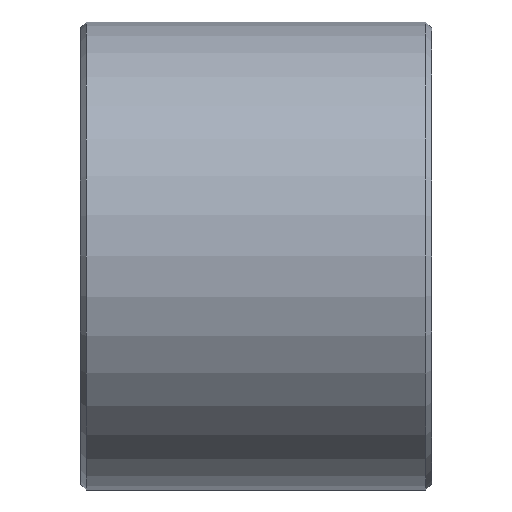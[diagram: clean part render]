
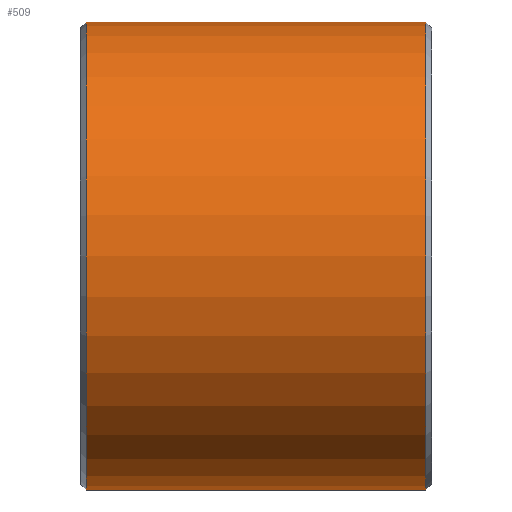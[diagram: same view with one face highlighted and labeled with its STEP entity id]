
A CAD part, left-side view. The second image highlights one B-rep face of the part: STEP entity #509.
In plain terms, the highlighted cylindrical face has radius 20 mm (diameter 40 mm), a partial arc.
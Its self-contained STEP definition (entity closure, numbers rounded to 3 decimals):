
#21 = VERTEX_POINT ( 'NONE', #419 ) ;
#72 = CIRCLE ( 'NONE', #768, 20. ) ;
#145 = CARTESIAN_POINT ( 'NONE',  ( 0., 65.513, -20. ) ) ;
#195 = DIRECTION ( 'NONE',  ( 0., 0., 1. ) ) ;
#209 = VECTOR ( 'NONE', #886, 1000. ) ;
#318 = CARTESIAN_POINT ( 'NONE',  ( 0., -28., 20. ) ) ;
#330 = AXIS2_PLACEMENT_3D ( 'NONE', #1139, #493, #195 ) ;
#354 = LINE ( 'NONE', #1282, #1100 ) ;
#419 = CARTESIAN_POINT ( 'NONE',  ( 0., 1., 20. ) ) ;
#478 = EDGE_CURVE ( 'NONE', #816, #770, #746, .T. ) ;
#490 = DIRECTION ( 'NONE',  ( 0., 1., 0. ) ) ;
#493 = DIRECTION ( 'NONE',  ( 0., -1., 0. ) ) ;
#509 = ADVANCED_FACE ( 'NONE', ( #1005 ), #700, .T. ) ;
#599 = CARTESIAN_POINT ( 'NONE',  ( 0., 1., -20. ) ) ;
#608 = DIRECTION ( 'NONE',  ( 0., 0., -1. ) ) ;
#667 = EDGE_CURVE ( 'NONE', #21, #770, #1198, .T. ) ;
#674 = EDGE_CURVE ( 'NONE', #816, #866, #72, .T. ) ;
#691 = DIRECTION ( 'NONE',  ( 0., 0., 1. ) ) ;
#697 = EDGE_LOOP ( 'NONE', ( #832, #1272, #911, #755 ) ) ;
#700 = CYLINDRICAL_SURFACE ( 'NONE', #703, 20. ) ;
#703 = AXIS2_PLACEMENT_3D ( 'NONE', #1335, #1212, #691 ) ;
#746 = LINE ( 'NONE', #145, #209 ) ;
#755 = ORIENTED_EDGE ( 'NONE', *, *, #667, .T. ) ;
#768 = AXIS2_PLACEMENT_3D ( 'NONE', #1246, #490, #608 ) ;
#770 = VERTEX_POINT ( 'NONE', #599 ) ;
#816 = VERTEX_POINT ( 'NONE', #817 ) ;
#817 = CARTESIAN_POINT ( 'NONE',  ( 0., -28., -20. ) ) ;
#832 = ORIENTED_EDGE ( 'NONE', *, *, #478, .F. ) ;
#866 = VERTEX_POINT ( 'NONE', #318 ) ;
#886 = DIRECTION ( 'NONE',  ( 0., 1., 0. ) ) ;
#911 = ORIENTED_EDGE ( 'NONE', *, *, #926, .T. ) ;
#926 = EDGE_CURVE ( 'NONE', #866, #21, #354, .T. ) ;
#1005 = FACE_OUTER_BOUND ( 'NONE', #697, .T. ) ;
#1100 = VECTOR ( 'NONE', #1372, 1000. ) ;
#1139 = CARTESIAN_POINT ( 'NONE',  ( 0., 1., 0. ) ) ;
#1198 = CIRCLE ( 'NONE', #330, 20. ) ;
#1212 = DIRECTION ( 'NONE',  ( 0., 1., 0. ) ) ;
#1246 = CARTESIAN_POINT ( 'NONE',  ( 0., -28., 0. ) ) ;
#1272 = ORIENTED_EDGE ( 'NONE', *, *, #674, .T. ) ;
#1282 = CARTESIAN_POINT ( 'NONE',  ( 0., 65.513, 20. ) ) ;
#1335 = CARTESIAN_POINT ( 'NONE',  ( 0., 65.513, 0. ) ) ;
#1372 = DIRECTION ( 'NONE',  ( 0., 1., 0. ) ) ;
